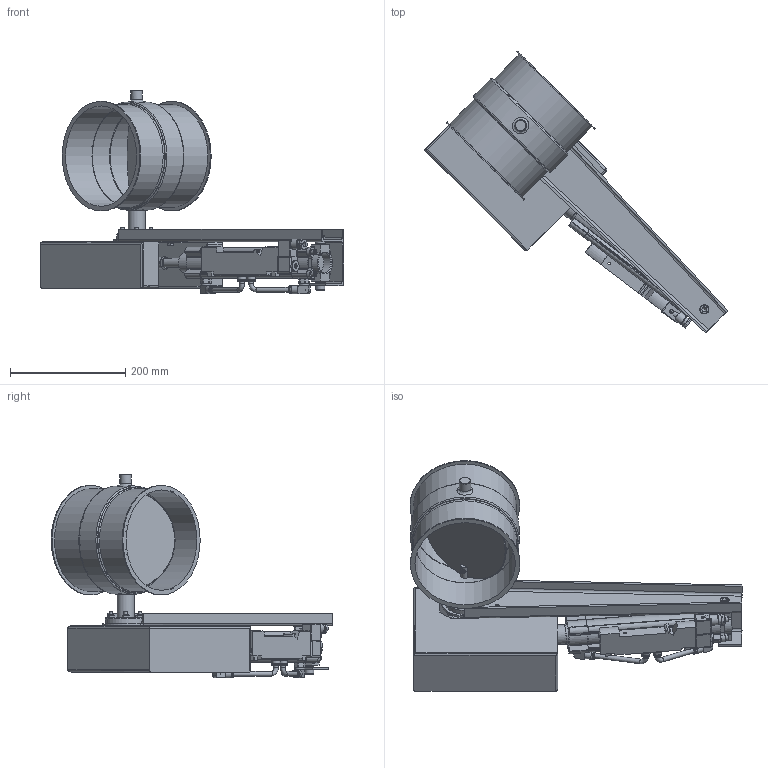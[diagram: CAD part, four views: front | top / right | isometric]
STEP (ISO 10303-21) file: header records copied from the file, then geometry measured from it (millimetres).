
FILE_DESCRIPTION((''),'2;1');
FILE_NAME('U:\Wolfgang\Marcel-3D\fertig\Kapitel 8\1721210.stp','2011-05-03T15:01:22',('TK1'),(''),'Autodesk Inventor 2010','Autodesk Inventor 2010','');
FILE_SCHEMA(('AUTOMOTIVE_DESIGN { 1 0 10303 214 1 1 1 1 }'));
Length unit declared in the file: millimetre
Products named in the file (38): 1721210; BuchseD15 70-50; Bolzen D15; Scheibe170b; F1 Zylindereinheit; 174412_ZNCF_40_6_0; 174412_ZNCF_40_6_01; 174412_ZNCF_40_6_02; 174412_ZNCF_40_6_03; 174412_ZNCF_40_6_04; 174412_ZNCF_40_6_05; 532743_DNCB_40_160_PPV_A_6_0; 532743_DNCB_40_160_PPV_A_6_01; 532743_DNCB_40_160_PPV_A_6_02; 537600_VUVB_S_B42_ZD_Q8_3AC1_6_0; 537600_VUVB_S_B42_ZD_Q8_3AC1_6_01; 537600_VUVB_S_B42_ZD_Q8_3AC1_6_02; 537600_VUVB_S_B42_ZD_Q8_3AC1_6_03; 4527_MSFG_24_42_50_60_6_0; 4527_MSFG_24_42_50_60_6_01; 4527_MSFG_24_42_50_60_6_02; 153414_QSRL_1_4_8_6_0; schlauch; Strebe d15; 0021088 d15; Bolzen; Schutzkasten; Kasten-a; Kasten-b; 13570_CRSG_M12x125_6_0; ISO 4018 M6 x 20; ISO 4032 M6; ISO 4018 M8 x 30; ISO 4027 M6 x 10; DIN 6912 M6 x 16; DIN EN ISO 4018 M6x25; DIN 555 - ersetzt durch DIN EN 24034 M6; 1721210-1
Assembly tree (50 placements, depth 4):
  1721210
    BuchseD15 70-50
    Bolzen D15  x2
    Scheibe170b
    F1 Zylindereinheit
      174412_ZNCF_40_6_0
        174412_ZNCF_40_6_01
        174412_ZNCF_40_6_02
        174412_ZNCF_40_6_03
        174412_ZNCF_40_6_04
        174412_ZNCF_40_6_05
      532743_DNCB_40_160_PPV_A_6_0
        532743_DNCB_40_160_PPV_A_6_01
        532743_DNCB_40_160_PPV_A_6_02
      537600_VUVB_S_B42_ZD_Q8_3AC1_6_0
        537600_VUVB_S_B42_ZD_Q8_3AC1_6_01
        537600_VUVB_S_B42_ZD_Q8_3AC1_6_02
        537600_VUVB_S_B42_ZD_Q8_3AC1_6_03
      4527_MSFG_24_42_50_60_6_0
        4527_MSFG_24_42_50_60_6_01
        4527_MSFG_24_42_50_60_6_02
      153414_QSRL_1_4_8_6_0  x2
      schlauch  x2
      Strebe d15
      0021088 d15
      Bolzen
      Schutzkasten
        Kasten-a
        Kasten-b
      13570_CRSG_M12x125_6_0
      ISO 4018 M6 x 20  x2
      ISO 4032 M6  x2
      ISO 4018 M8 x 30
      ISO 4027 M6 x 10  x2
    DIN 6912 M6 x 16  x2
    DIN EN ISO 4018 M6x25  x4
    DIN 555 - ersetzt durch DIN EN 24034 M6  x4
    1721210-1
Bounding box: 526.09 x 487.89 x 353.27 mm (x, y, z)
Volume: 1683180.9 mm3; surface area: 947212.3 mm2
Topology: 44 solids, 44 shells, 2636 faces, 6978 edges, 4530 vertices
Faces by surface type: plane 1948, cylinder 407, cone 223, bspline 45, torus 11, sphere 2
Full cylindrical faces by diameter (mm): 1 x3, 2.459 x1, 3 x4, 3.5 x1, 4 x1, 4.5 x1, 4.917 x8, 5 x2, 5.471 x2, 5.5 x1, 6 x37, 6.8 x4, 7.188 x1, 8 x10, 8.05 x1, 9 x2, 9.6 x2, 9.653 x1, 10 x8, 10.15 x2, 11.2 x2, 11.445 x2, 12 x6, 12.5 x1, 13.05 x2, 13.157 x2, 14 x6, 14.4 x4, 14.5 x2, 14.7 x6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
Entity records: 76942 total; most frequent: CARTESIAN_POINT 15256, ORIENTED_EDGE 12294, DIRECTION 11865, EDGE_CURVE 6147, VECTOR 4909, LINE 4909, VERTEX_POINT 4172, AXIS2_PLACEMENT_3D 3478
